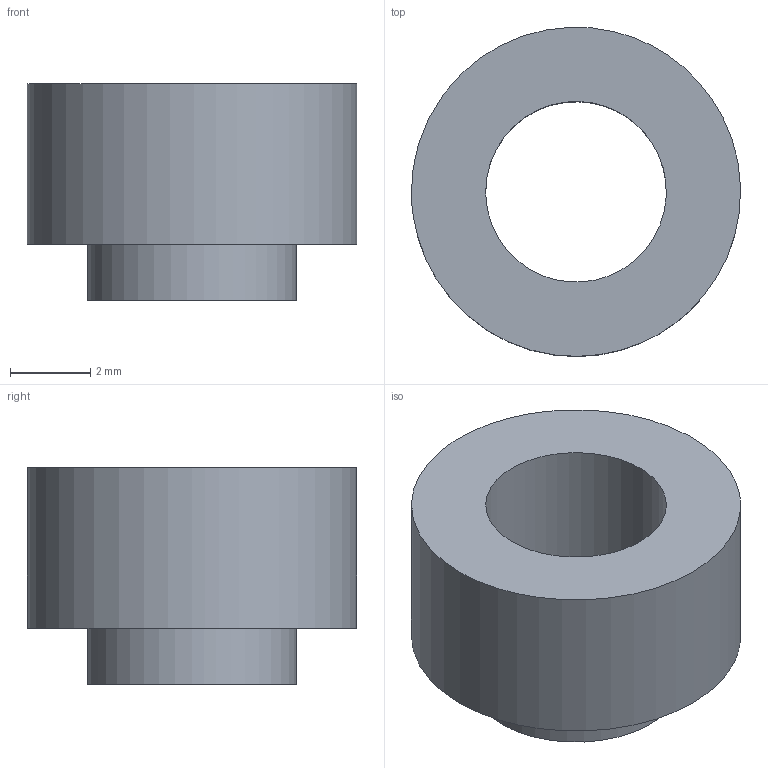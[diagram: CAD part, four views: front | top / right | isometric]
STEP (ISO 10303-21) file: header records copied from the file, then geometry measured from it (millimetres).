
FILE_DESCRIPTION(('FreeCAD Model'),'2;1');
FILE_NAME('Open CASCADE Shape Model','2026-03-20T17:23:13',('Author'),( ''),'Open CASCADE STEP processor 7.8','FreeCAD','Unknown');
FILE_SCHEMA(('AP242_MANAGED_MODEL_BASED_3D_ENGINEERING_MIM_LF. {1 0 10303 442 1 1 4 }'));
Length unit declared in the file: millimetre
Products named in the file (1): 1_transformed
Bounding box: 8.2 x 8.2 x 5.4 mm (x, y, z)
Volume: 156.4 mm3; surface area: 276.6 mm2
Topology: 1 solids, 1 shells, 6 faces, 9 edges, 6 vertices
Faces by surface type: bspline 6
Entity records: 201 total; most frequent: CARTESIAN_POINT 109, ORIENTED_EDGE 18, FACE_BOUND 9, EDGE_LOOP 9, EDGE_CURVE 9, ADVANCED_FACE 6, VERTEX_POINT 6, B_SPLINE_CURVE_WITH_KNOTS 3
